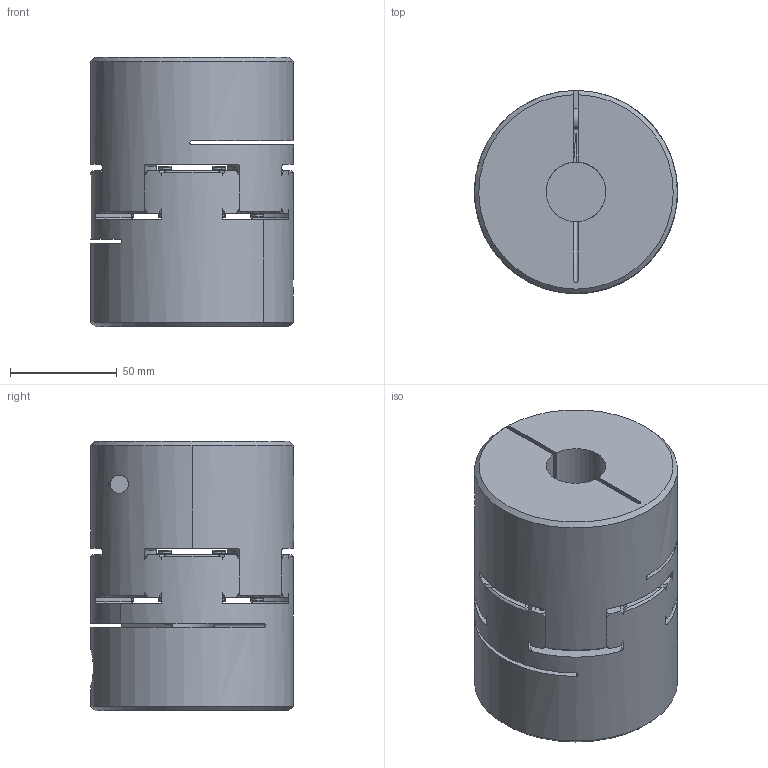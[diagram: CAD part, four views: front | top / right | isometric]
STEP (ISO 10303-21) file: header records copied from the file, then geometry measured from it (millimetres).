
FILE_DESCRIPTION((''),'2;1');
FILE_NAME('ROBA-ES__SIZE_42_TYPE_940_000','2021-05-11T11:19:39',('procad'),('Chr. Mayr GmbH + Co. KG'),'CREO PARAMETRIC BY PTC INC, 2019471','CREO PARAMETRIC BY PTC INC, 2019471','');
FILE_SCHEMA(('CONFIG_CONTROL_DESIGN','SHAPE_APPEARANCE_LAYERS_GROUPS'));
Length unit declared in the file: millimetre
Products named in the file (1): ROBA-ES__SIZE_42_TYPE_940_000
Bounding box: 95 x 95 x 126 mm (x, y, z)
Volume: 737601.1 mm3; surface area: 112125.7 mm2
Topology: 1 solids, 1 shells, 483 faces, 1288 edges, 806 vertices
Faces by surface type: plane 191, cylinder 126, cone 88, torus 78
Entity records: 18907 total; most frequent: CARTESIAN_POINT 4102, ORIENTED_EDGE 2576, DIRECTION 2548, EDGE_CURVE 1288, AXIS2_PLACEMENT_3D 995, VERTEX_POINT 806, VECTOR 558, LINE 558
